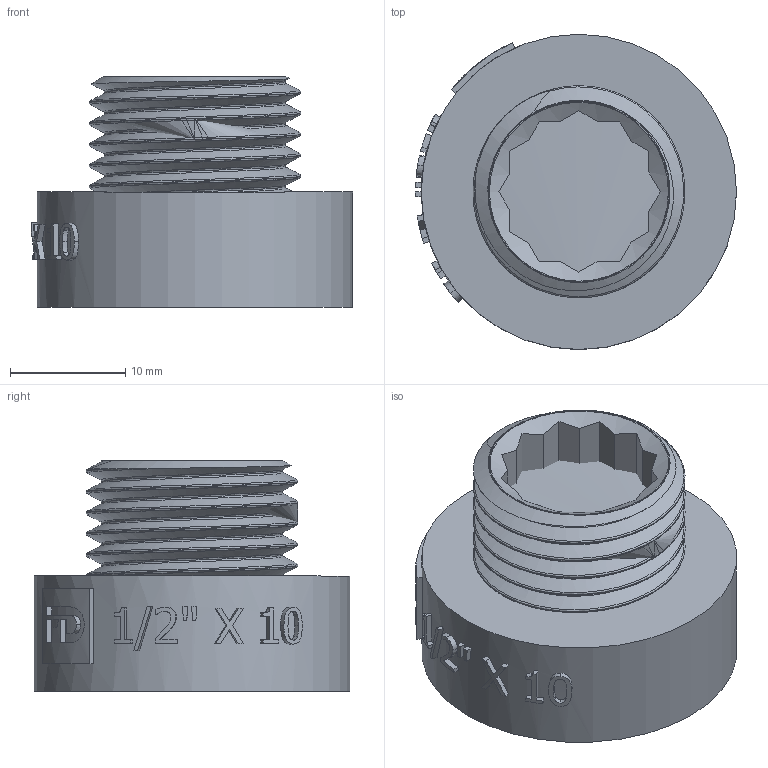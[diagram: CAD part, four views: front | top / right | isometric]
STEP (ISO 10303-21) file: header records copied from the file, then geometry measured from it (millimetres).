
FILE_DESCRIPTION(/* description */ (''),/* implementation_level */ '2;1');
FILE_NAME(/* name */ 'C:\Users\Doom\Desktop\Фадотех\Резьба\UD10 18.03.2020\UD10 18.03.2020.stp',/* time_stamp */ '2022-01-22T10:45:57+02:00',/* author */ ('Doom'),/* organization */ (''),/* preprocessor_version */ 'ST-DEVELOPER v18',/* originating_system */ 'Autodesk Inventor 2020',/* authorisation */ '');
FILE_SCHEMA (('AUTOMOTIVE_DESIGN { 1 0 10303 214 3 1 1 }'));
Length unit declared in the file: millimetre
Products named in the file (1): UD10 18.03.2020
Bounding box: 27.8 x 27.3 x 20 mm (x, y, z)
Volume: 4441.5 mm3; surface area: 6118.1 mm2
Topology: 3 solids, 3 shells, 176 faces, 473 edges, 318 vertices
Faces by surface type: plane 86, bspline 56, cylinder 31, cone 3
Full cylindrical faces by diameter (mm): 15.649 x2, 18.34 x5, 18.393 x3, 19.068 x1, 21.084 x2, 21.5 x1, 27.3 x1
Entity records: 11667 total; most frequent: CARTESIAN_POINT 7676, ORIENTED_EDGE 946, DIRECTION 622, EDGE_CURVE 473, VERTEX_POINT 318, AXIS2_PLACEMENT_3D 221, EDGE_LOOP 197, LINE 180
